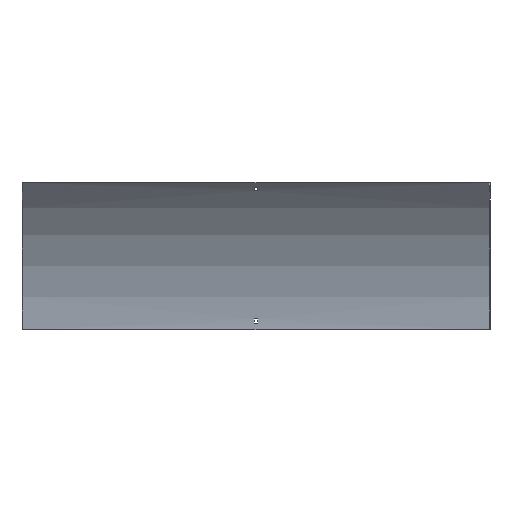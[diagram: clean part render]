
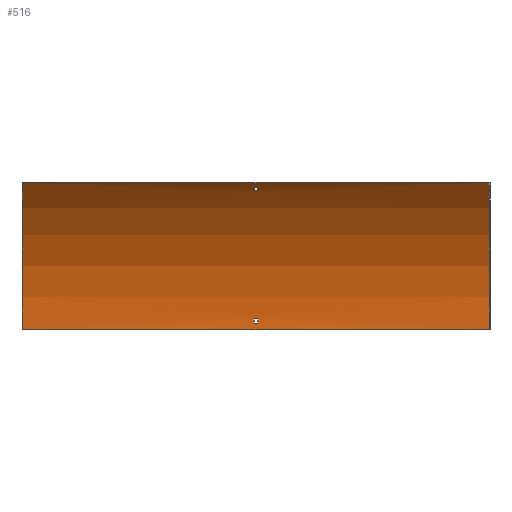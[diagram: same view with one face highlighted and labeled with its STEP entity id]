
A CAD part, front view. The second image highlights one B-rep face of the part: STEP entity #516.
In plain terms, the highlighted cylindrical face has radius 400 mm (diameter 800 mm), a partial arc.
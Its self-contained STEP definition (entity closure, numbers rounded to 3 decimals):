
#5 = AXIS2_PLACEMENT_3D ( 'NONE', #351, #451, #457 ) ;
#8 = ORIENTED_EDGE ( 'NONE', *, *, #558, .F. ) ;
#10 = DIRECTION ( 'NONE',  ( 1., 0., 0. ) ) ;
#14 = DIRECTION ( 'NONE',  ( 0., 0., 1. ) ) ;
#28 = CARTESIAN_POINT ( 'NONE',  ( -450., -401.5, 0. ) ) ;
#32 = ORIENTED_EDGE ( 'NONE', *, *, #111, .T. ) ;
#34 = FACE_BOUND ( 'NONE', #598, .T. ) ;
#55 = LINE ( 'NONE', #153, #583 ) ;
#63 = CARTESIAN_POINT ( 'NONE',  ( 3.25, -2.052, 21. ) ) ;
#72 = DIRECTION ( 'NONE',  ( 0., 0., 1. ) ) ;
#73 = DIRECTION ( 'NONE',  ( 1., 0., 0. ) ) ;
#76 = LINE ( 'NONE', #498, #377 ) ;
#81 = CARTESIAN_POINT ( 'NONE',  ( 3.25, -110.299, 274.23 ) ) ;
#84 = AXIS2_PLACEMENT_3D ( 'NONE', #542, #293, #388 ) ;
#111 = EDGE_CURVE ( 'NONE', #244, #286, #172, .T. ) ;
#118 = ORIENTED_EDGE ( 'NONE', *, *, #328, .T. ) ;
#122 = ORIENTED_EDGE ( 'NONE', *, *, #578, .F. ) ;
#126 = CARTESIAN_POINT ( 'NONE',  ( 3.25, -104.198, 267.603 ) ) ;
#130 = VERTEX_POINT ( 'NONE', #392 ) ;
#142 = DIRECTION ( 'NONE',  ( -1., 0., 0. ) ) ;
#148 = CARTESIAN_POINT ( 'NONE',  ( -3.25, -104.198, 267.603 ) ) ;
#153 = CARTESIAN_POINT ( 'NONE',  ( 450., -1.5, 0. ) ) ;
#159 = CIRCLE ( 'NONE', #236, 400. ) ;
#172 = CIRCLE ( 'NONE', #603, 400. ) ;
#175 = CARTESIAN_POINT ( 'NONE',  ( 451.5, -110.299, 274.23 ) ) ;
#177 = VERTEX_POINT ( 'NONE', #262 ) ;
#182 = DIRECTION ( 'NONE',  ( 1., 0., 0. ) ) ;
#186 = CIRCLE ( 'NONE', #227, 400. ) ;
#206 = CARTESIAN_POINT ( 'NONE',  ( 450., -1.5, 0. ) ) ;
#208 = DIRECTION ( 'NONE',  ( 1., 0., 0. ) ) ;
#210 = CYLINDRICAL_SURFACE ( 'NONE', #606, 400. ) ;
#225 = EDGE_CURVE ( 'NONE', #441, #177, #186, .T. ) ;
#227 = AXIS2_PLACEMENT_3D ( 'NONE', #28, #208, #587 ) ;
#228 = VECTOR ( 'NONE', #560, 1000. ) ;
#236 = AXIS2_PLACEMENT_3D ( 'NONE', #361, #487, #543 ) ;
#237 = EDGE_CURVE ( 'NONE', #462, #177, #313, .T. ) ;
#238 = DIRECTION ( 'NONE',  ( -1., 0., 0. ) ) ;
#244 = VERTEX_POINT ( 'NONE', #81 ) ;
#247 = CARTESIAN_POINT ( 'NONE',  ( 450., -118.657, 282.843 ) ) ;
#251 = CARTESIAN_POINT ( 'NONE',  ( 3.25, -1.68, 12. ) ) ;
#252 = CARTESIAN_POINT ( 'NONE',  ( 451.5, -1.68, 12. ) ) ;
#258 = AXIS2_PLACEMENT_3D ( 'NONE', #467, #182, #602 ) ;
#262 = CARTESIAN_POINT ( 'NONE',  ( -450., -118.657, 282.843 ) ) ;
#275 = CIRCLE ( 'NONE', #84, 400. ) ;
#279 = ORIENTED_EDGE ( 'NONE', *, *, #485, .F. ) ;
#286 = VERTEX_POINT ( 'NONE', #126 ) ;
#287 = LINE ( 'NONE', #175, #425 ) ;
#292 = EDGE_LOOP ( 'NONE', ( #338, #307, #118, #32 ) ) ;
#293 = DIRECTION ( 'NONE',  ( 1., 0., 0. ) ) ;
#298 = DIRECTION ( 'NONE',  ( -1., 0., 0. ) ) ;
#303 = DIRECTION ( 'NONE',  ( -1., 0., 0. ) ) ;
#307 = ORIENTED_EDGE ( 'NONE', *, *, #321, .T. ) ;
#313 = LINE ( 'NONE', #505, #381 ) ;
#321 = EDGE_CURVE ( 'NONE', #410, #432, #563, .T. ) ;
#328 = EDGE_CURVE ( 'NONE', #432, #244, #287, .T. ) ;
#331 = EDGE_CURVE ( 'NONE', #576, #396, #370, .T. ) ;
#338 = ORIENTED_EDGE ( 'NONE', *, *, #551, .T. ) ;
#347 = LINE ( 'NONE', #252, #588 ) ;
#351 = CARTESIAN_POINT ( 'NONE',  ( 3.25, -401.5, 0. ) ) ;
#357 = ORIENTED_EDGE ( 'NONE', *, *, #331, .F. ) ;
#361 = CARTESIAN_POINT ( 'NONE',  ( -3.25, -401.5, 0. ) ) ;
#366 = CIRCLE ( 'NONE', #5, 400. ) ;
#370 = LINE ( 'NONE', #482, #228 ) ;
#377 = VECTOR ( 'NONE', #298, 1000. ) ;
#381 = VECTOR ( 'NONE', #303, 1000. ) ;
#388 = DIRECTION ( 'NONE',  ( 0., 0., -1. ) ) ;
#391 = CARTESIAN_POINT ( 'NONE',  ( -3.25, -2.052, 21. ) ) ;
#392 = CARTESIAN_POINT ( 'NONE',  ( -3.25, -1.68, 12. ) ) ;
#396 = VERTEX_POINT ( 'NONE', #391 ) ;
#399 = EDGE_CURVE ( 'NONE', #452, #462, #275, .T. ) ;
#410 = VERTEX_POINT ( 'NONE', #148 ) ;
#425 = VECTOR ( 'NONE', #10, 1000. ) ;
#431 = VERTEX_POINT ( 'NONE', #251 ) ;
#432 = VERTEX_POINT ( 'NONE', #586 ) ;
#436 = CARTESIAN_POINT ( 'NONE',  ( 3.25, -401.5, 0. ) ) ;
#441 = VERTEX_POINT ( 'NONE', #537 ) ;
#451 = DIRECTION ( 'NONE',  ( 1., 0., 0. ) ) ;
#452 = VERTEX_POINT ( 'NONE', #206 ) ;
#457 = DIRECTION ( 'NONE',  ( 0., 0., -1. ) ) ;
#460 = FACE_BOUND ( 'NONE', #292, .T. ) ;
#462 = VERTEX_POINT ( 'NONE', #247 ) ;
#465 = DIRECTION ( 'NONE',  ( -1., 0., 0. ) ) ;
#467 = CARTESIAN_POINT ( 'NONE',  ( -3.25, -401.5, 0. ) ) ;
#482 = CARTESIAN_POINT ( 'NONE',  ( 451.5, -2.052, 21. ) ) ;
#485 = EDGE_CURVE ( 'NONE', #452, #441, #55, .T. ) ;
#487 = DIRECTION ( 'NONE',  ( -1., 0., 0. ) ) ;
#498 = CARTESIAN_POINT ( 'NONE',  ( 451.5, -104.198, 267.603 ) ) ;
#502 = FACE_OUTER_BOUND ( 'NONE', #510, .T. ) ;
#505 = CARTESIAN_POINT ( 'NONE',  ( 450., -118.657, 282.843 ) ) ;
#510 = EDGE_LOOP ( 'NONE', ( #544, #279, #604, #605 ) ) ;
#516 = ADVANCED_FACE ( 'NONE', ( #34, #502, #460 ), #210, .F. ) ;
#521 = ORIENTED_EDGE ( 'NONE', *, *, #568, .F. ) ;
#537 = CARTESIAN_POINT ( 'NONE',  ( -450., -1.5, 0. ) ) ;
#542 = CARTESIAN_POINT ( 'NONE',  ( 450., -401.5, 0. ) ) ;
#543 = DIRECTION ( 'NONE',  ( 0., 0., 1. ) ) ;
#544 = ORIENTED_EDGE ( 'NONE', *, *, #225, .F. ) ;
#551 = EDGE_CURVE ( 'NONE', #286, #410, #76, .T. ) ;
#558 = EDGE_CURVE ( 'NONE', #396, #130, #159, .T. ) ;
#560 = DIRECTION ( 'NONE',  ( -1., 0., 0. ) ) ;
#563 = CIRCLE ( 'NONE', #258, 400. ) ;
#568 = EDGE_CURVE ( 'NONE', #130, #431, #347, .T. ) ;
#576 = VERTEX_POINT ( 'NONE', #63 ) ;
#578 = EDGE_CURVE ( 'NONE', #431, #576, #366, .T. ) ;
#583 = VECTOR ( 'NONE', #238, 1000. ) ;
#586 = CARTESIAN_POINT ( 'NONE',  ( -3.25, -110.299, 274.23 ) ) ;
#587 = DIRECTION ( 'NONE',  ( 0., 0., -1. ) ) ;
#588 = VECTOR ( 'NONE', #73, 1000. ) ;
#590 = CARTESIAN_POINT ( 'NONE',  ( 451.5, -401.5, 0. ) ) ;
#598 = EDGE_LOOP ( 'NONE', ( #8, #357, #122, #521 ) ) ;
#602 = DIRECTION ( 'NONE',  ( 0., 0., -1. ) ) ;
#603 = AXIS2_PLACEMENT_3D ( 'NONE', #436, #142, #14 ) ;
#604 = ORIENTED_EDGE ( 'NONE', *, *, #399, .T. ) ;
#605 = ORIENTED_EDGE ( 'NONE', *, *, #237, .T. ) ;
#606 = AXIS2_PLACEMENT_3D ( 'NONE', #590, #465, #72 ) ;
